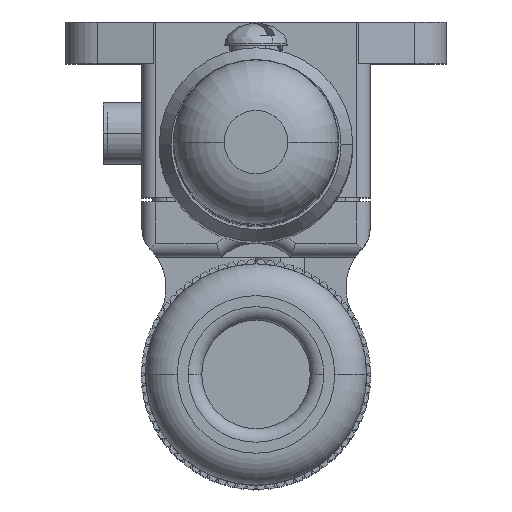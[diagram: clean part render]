
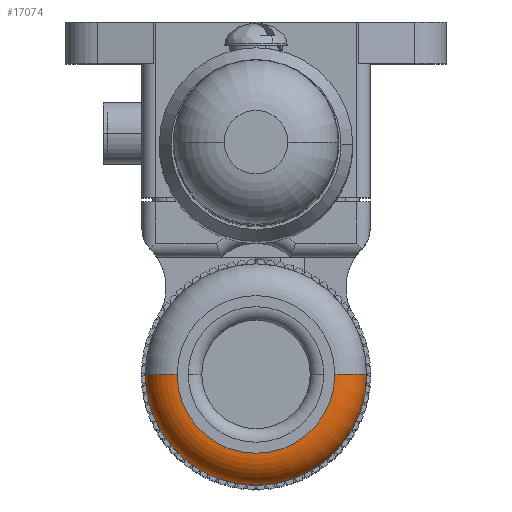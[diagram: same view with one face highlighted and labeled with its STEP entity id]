
A CAD part, top view. The second image highlights one B-rep face of the part: STEP entity #17074.
In plain terms, the highlighted toroidal (fillet/blend) face has major radius 5.7 mm and minor radius 2.3 mm.
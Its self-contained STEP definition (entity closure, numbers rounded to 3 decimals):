
#810 = AXIS2_PLACEMENT_3D ( 'NONE', #8146, #1581, #1443 ) ;
#906 = CARTESIAN_POINT ( 'NONE',  ( 0., -25.5, 20.9 ) ) ;
#1443 = DIRECTION ( 'NONE',  ( -1., 0., 0. ) ) ;
#1581 = DIRECTION ( 'NONE',  ( 0., 0., -1. ) ) ;
#4836 = DIRECTION ( 'NONE',  ( 0., 0., -1. ) ) ;
#5035 = EDGE_LOOP ( 'NONE', ( #43602, #23302, #31142, #17712 ) ) ;
#5714 = CARTESIAN_POINT ( 'NONE',  ( -8., -25.5, 20.9 ) ) ;
#5757 = TOROIDAL_SURFACE ( 'NONE', #17424, 5.7, 2.3 ) ;
#6496 = CIRCLE ( 'NONE', #20406, 5.7 ) ;
#6794 = FACE_OUTER_BOUND ( 'NONE', #5035, .T. ) ;
#8146 = CARTESIAN_POINT ( 'NONE',  ( 0., -25.5, 20.9 ) ) ;
#10109 = CARTESIAN_POINT ( 'NONE',  ( 5.7, -25.5, 23.2 ) ) ;
#10199 = VERTEX_POINT ( 'NONE', #5714 ) ;
#11751 = CIRCLE ( 'NONE', #810, 8. ) ;
#12763 = DIRECTION ( 'NONE',  ( -1., 0., 0. ) ) ;
#12791 = EDGE_CURVE ( 'NONE', #42558, #14264, #39971, .T. ) ;
#14264 = VERTEX_POINT ( 'NONE', #18104 ) ;
#14641 = DIRECTION ( 'NONE',  ( 0., -1., 0. ) ) ;
#15789 = EDGE_CURVE ( 'NONE', #36835, #42558, #6496, .T. ) ;
#17074 = ADVANCED_FACE ( 'NONE', ( #6794 ), #5757, .T. ) ;
#17424 = AXIS2_PLACEMENT_3D ( 'NONE', #906, #4836, #31158 ) ;
#17571 = DIRECTION ( 'NONE',  ( 0., 0., -1. ) ) ;
#17712 = ORIENTED_EDGE ( 'NONE', *, *, #36807, .F. ) ;
#18104 = CARTESIAN_POINT ( 'NONE',  ( 8., -25.5, 20.9 ) ) ;
#18276 = CARTESIAN_POINT ( 'NONE',  ( -5.7, -25.5, 23.2 ) ) ;
#20406 = AXIS2_PLACEMENT_3D ( 'NONE', #29832, #40156, #12763 ) ;
#21778 = CARTESIAN_POINT ( 'NONE',  ( 5.7, -25.5, 20.9 ) ) ;
#22545 = CIRCLE ( 'NONE', #39855, 2.3 ) ;
#23302 = ORIENTED_EDGE ( 'NONE', *, *, #15789, .F. ) ;
#24158 = EDGE_CURVE ( 'NONE', #36835, #10199, #22545, .T. ) ;
#24571 = CARTESIAN_POINT ( 'NONE',  ( -5.7, -25.5, 20.9 ) ) ;
#29832 = CARTESIAN_POINT ( 'NONE',  ( 0., -25.5, 23.2 ) ) ;
#31142 = ORIENTED_EDGE ( 'NONE', *, *, #24158, .T. ) ;
#31158 = DIRECTION ( 'NONE',  ( -1., 0., 0. ) ) ;
#35515 = DIRECTION ( 'NONE',  ( -1., 0., 0. ) ) ;
#36807 = EDGE_CURVE ( 'NONE', #14264, #10199, #11751, .T. ) ;
#36835 = VERTEX_POINT ( 'NONE', #18276 ) ;
#38617 = DIRECTION ( 'NONE',  ( 0., 1., 0. ) ) ;
#39855 = AXIS2_PLACEMENT_3D ( 'NONE', #24571, #14641, #17571 ) ;
#39971 = CIRCLE ( 'NONE', #42350, 2.3 ) ;
#40156 = DIRECTION ( 'NONE',  ( 0., 0., 1. ) ) ;
#42350 = AXIS2_PLACEMENT_3D ( 'NONE', #21778, #38617, #35515 ) ;
#42558 = VERTEX_POINT ( 'NONE', #10109 ) ;
#43602 = ORIENTED_EDGE ( 'NONE', *, *, #12791, .F. ) ;
